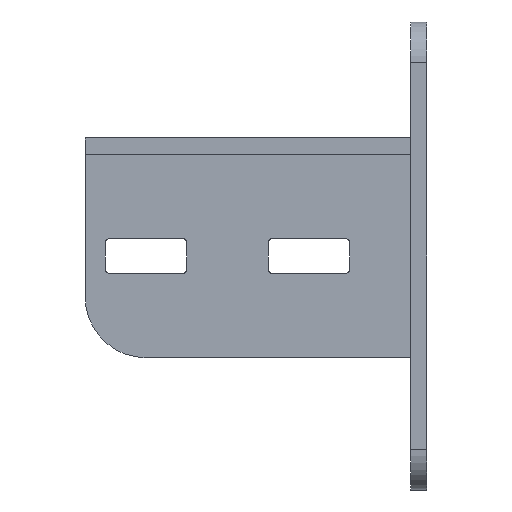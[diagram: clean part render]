
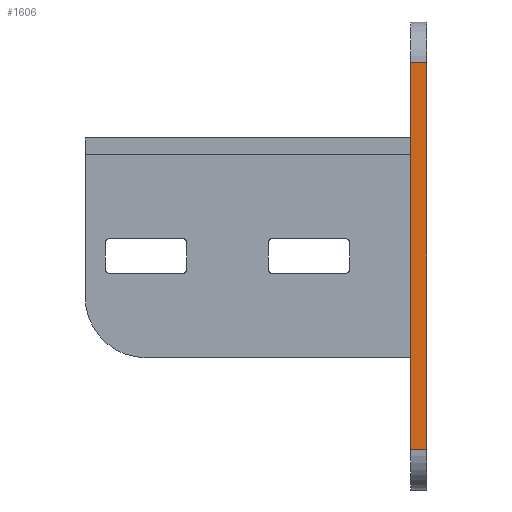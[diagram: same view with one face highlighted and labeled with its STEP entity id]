
A CAD part, left-side view. The second image highlights one B-rep face of the part: STEP entity #1606.
In plain terms, the highlighted planar face has unit normal (-1, 0, 0).
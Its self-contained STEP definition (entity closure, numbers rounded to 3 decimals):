
#19 = VERTEX_POINT ( 'NONE', #3103 ) ;
#151 = LINE ( 'NONE', #2209, #2713 ) ;
#159 = ORIENTED_EDGE ( 'NONE', *, *, #1312, .T. ) ;
#160 = CARTESIAN_POINT ( 'NONE',  ( -82.5, 4., -47.5 ) ) ;
#336 = DIRECTION ( 'NONE',  ( 0., -1., 0. ) ) ;
#364 = LINE ( 'NONE', #2328, #1948 ) ;
#416 = CARTESIAN_POINT ( 'NONE',  ( -82.5, 4., 47.5 ) ) ;
#418 = DIRECTION ( 'NONE',  ( 1., 0., 0. ) ) ;
#780 = ORIENTED_EDGE ( 'NONE', *, *, #2830, .F. ) ;
#955 = EDGE_CURVE ( 'NONE', #2562, #19, #151, .T. ) ;
#1003 = VERTEX_POINT ( 'NONE', #1491 ) ;
#1274 = VECTOR ( 'NONE', #2146, 1000. ) ;
#1312 = EDGE_CURVE ( 'NONE', #2356, #2562, #364, .T. ) ;
#1491 = CARTESIAN_POINT ( 'NONE',  ( -82.5, 4., 47.5 ) ) ;
#1606 = ADVANCED_FACE ( 'NONE', ( #1799 ), #1920, .F. ) ;
#1704 = EDGE_LOOP ( 'NONE', ( #2490, #3168, #780, #159 ) ) ;
#1730 = DIRECTION ( 'NONE',  ( 0., 0., 1. ) ) ;
#1799 = FACE_OUTER_BOUND ( 'NONE', #1704, .T. ) ;
#1920 = PLANE ( 'NONE',  #2370 ) ;
#1948 = VECTOR ( 'NONE', #336, 1000. ) ;
#1958 = VECTOR ( 'NONE', #2545, 1000. ) ;
#2093 = CARTESIAN_POINT ( 'NONE',  ( -82.5, 4., -47.5 ) ) ;
#2146 = DIRECTION ( 'NONE',  ( 0., -1., 0. ) ) ;
#2160 = DIRECTION ( 'NONE',  ( 0., 0., -1. ) ) ;
#2209 = CARTESIAN_POINT ( 'NONE',  ( -82.5, 0., -47.5 ) ) ;
#2328 = CARTESIAN_POINT ( 'NONE',  ( -82.5, 4., -47.5 ) ) ;
#2356 = VERTEX_POINT ( 'NONE', #2093 ) ;
#2370 = AXIS2_PLACEMENT_3D ( 'NONE', #160, #418, #2160 ) ;
#2490 = ORIENTED_EDGE ( 'NONE', *, *, #955, .T. ) ;
#2545 = DIRECTION ( 'NONE',  ( 0., 0., 1. ) ) ;
#2562 = VERTEX_POINT ( 'NONE', #3120 ) ;
#2574 = EDGE_CURVE ( 'NONE', #1003, #19, #3132, .T. ) ;
#2682 = LINE ( 'NONE', #3002, #1958 ) ;
#2713 = VECTOR ( 'NONE', #1730, 1000. ) ;
#2830 = EDGE_CURVE ( 'NONE', #2356, #1003, #2682, .T. ) ;
#3002 = CARTESIAN_POINT ( 'NONE',  ( -82.5, 4., -47.5 ) ) ;
#3103 = CARTESIAN_POINT ( 'NONE',  ( -82.5, 0., 47.5 ) ) ;
#3120 = CARTESIAN_POINT ( 'NONE',  ( -82.5, 0., -47.5 ) ) ;
#3132 = LINE ( 'NONE', #416, #1274 ) ;
#3168 = ORIENTED_EDGE ( 'NONE', *, *, #2574, .F. ) ;
